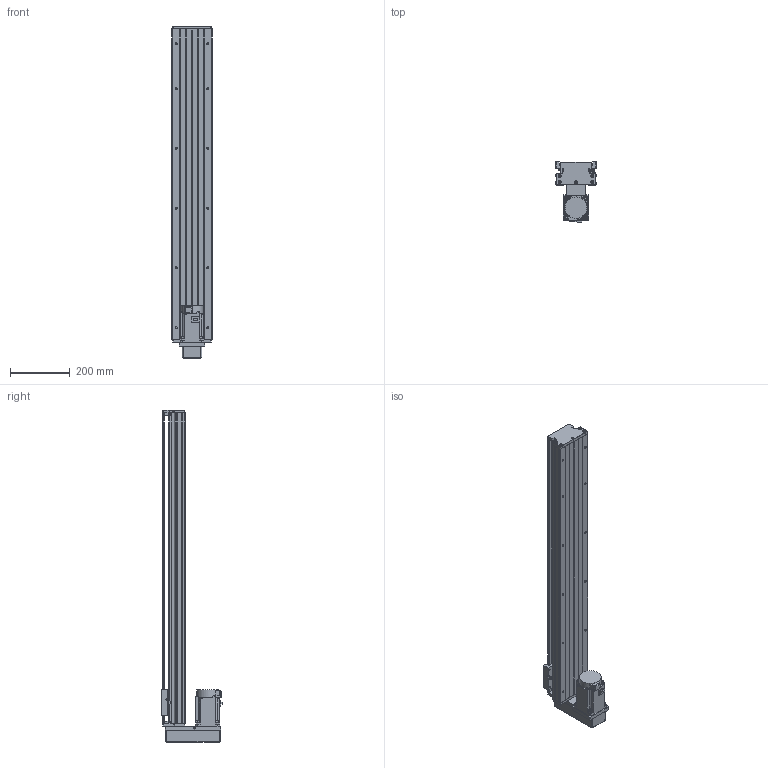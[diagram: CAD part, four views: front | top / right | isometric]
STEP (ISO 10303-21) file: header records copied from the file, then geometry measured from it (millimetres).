
FILE_DESCRIPTION (( 'STEP AP203' ), '1' );
FILE_NAME ('KTH130-900-BM-M75-C4.step', '2023-06-30T04:39:05', ( '微软用户' ), ( '微软中国' ), 'SwSTEP 2.0', 'SolidWorks 2020', '' );
FILE_SCHEMA (( 'CONFIG_CONTROL_DESIGN' ));
Length unit declared in the file: millimetre
Products named in the file (18): KTH130-005; GBT 70.1-M3℅5; KTH130-900-BM-M75-C4; GB1155-6X6; GBT77-2000 M3×3; GBT70.1 M5℅16; す晦芛蹟隊 M3℅5; GBT 70.2-M3¡Á5_M3¡Á6; GBT 70.3-M3℅8; GTH14-001_900; CTHA60-017; hg-kn73j_-s100; KTH130-002_KTH130-002; EE_SX911P_R; CTHA86-015-3_CTHA86-015-4; KTH130-004; CTHA60-016; CTHA86-035
Assembly tree (49 placements, depth 2):
  KTH130-900-BM-M75-C4
    GTH14-001_900
    KTH130-002_KTH130-002
    KTH130-004
    KTH130-005
    GB1155-6X6  x2
    GBT70.1 M5℅16  x10
    GBT 70.2-M3¡Á5_M3¡Á6  x4
    CTHA60-017  x3
    EE_SX911P_R  x3
    CTHA60-016  x2
    GBT 70.1-M3℅5  x6
    GBT77-2000 M3×3  x6
    す晦芛蹟隊 M3℅5  x2
    GBT 70.3-M3℅8  x4
    hg-kn73j_-s100
    CTHA86-015-3_CTHA86-015-4
    CTHA86-035
Bounding box: 135 x 202.8 x 1112 mm (x, y, z)
Volume: 6999996.2 mm3; surface area: 1004848.2 mm2
Topology: 52 solids, 52 shells, 2202 faces, 5340 edges, 3343 vertices
Faces by surface type: plane 1210, cylinder 638, cone 238, torus 100, sphere 16
Entity records: 40253 total; most frequent: CARTESIAN_POINT 6772, DIRECTION 6637, ORIENTED_EDGE 6184, EDGE_CURVE 3092, AXIS2_PLACEMENT_3D 2326, LINE 1985, VECTOR 1985, VERTEX_POINT 1977
